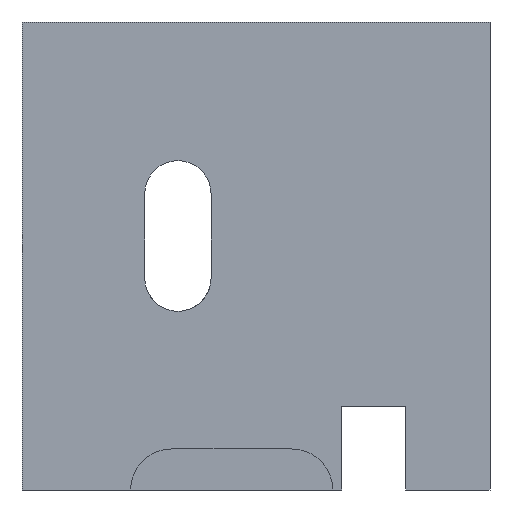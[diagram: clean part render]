
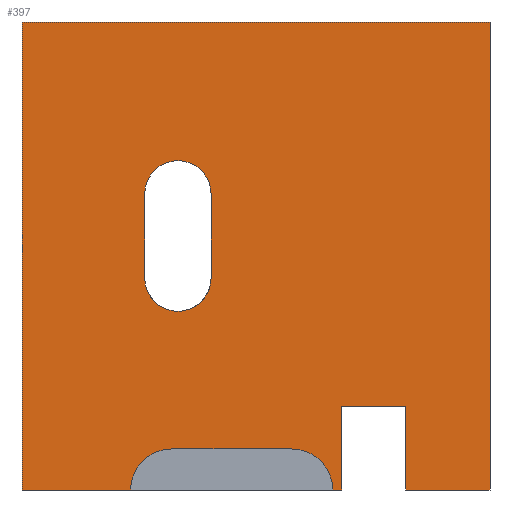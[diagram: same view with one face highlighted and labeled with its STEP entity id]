
A CAD part, left-side view. The second image highlights one B-rep face of the part: STEP entity #397.
In plain terms, the highlighted planar face has unit normal (-1, 0, 0).
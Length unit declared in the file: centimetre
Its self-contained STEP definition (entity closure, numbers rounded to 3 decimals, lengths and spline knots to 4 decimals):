
#7 = VECTOR ( 'NONE', #1164, 100. ) ;
#9 = VECTOR ( 'NONE', #144, 100. ) ;
#21 = LINE ( 'NONE', #1382, #1394 ) ;
#32 = EDGE_CURVE ( 'NONE', #129, #86, #112, .T. ) ;
#35 = CARTESIAN_POINT ( 'NONE',  ( 0., 1000., 1000. ) ) ;
#80 = ORIENTED_EDGE ( 'NONE', *, *, #687, .T. ) ;
#82 = DIRECTION ( 'NONE',  ( 1., 0., 0. ) ) ;
#84 = CARTESIAN_POINT ( 'NONE',  ( 0., 1000., 1000. ) ) ;
#86 = VERTEX_POINT ( 'NONE', #552 ) ;
#96 = ORIENTED_EDGE ( 'NONE', *, *, #774, .T. ) ;
#108 = EDGE_CURVE ( 'NONE', #1277, #644, #384, .T. ) ;
#112 = LINE ( 'NONE', #753, #224 ) ;
#129 = VERTEX_POINT ( 'NONE', #192 ) ;
#143 = VECTOR ( 'NONE', #1149, 100. ) ;
#144 = DIRECTION ( 'NONE',  ( 0., 0., -1. ) ) ;
#159 = CARTESIAN_POINT ( 'NONE',  ( 0., 596.045, 452.6683 ) ) ;
#165 = ORIENTED_EDGE ( 'NONE', *, *, #287, .T. ) ;
#169 = PLANE ( 'NONE',  #372 ) ;
#192 = CARTESIAN_POINT ( 'NONE',  ( 0., 1000., 1000. ) ) ;
#200 = EDGE_CURVE ( 'NONE', #209, #613, #1311, .T. ) ;
#209 = VERTEX_POINT ( 'NONE', #409 ) ;
#210 = VERTEX_POINT ( 'NONE', #756 ) ;
#224 = VECTOR ( 'NONE', #767, 100. ) ;
#276 = CARTESIAN_POINT ( 'NONE',  ( 0., 317.1774, 178.5651 ) ) ;
#287 = EDGE_CURVE ( 'NONE', #570, #1354, #922, .T. ) ;
#296 = ORIENTED_EDGE ( 'NONE', *, *, #1209, .T. ) ;
#300 = LINE ( 'NONE', #391, #330 ) ;
#305 = ORIENTED_EDGE ( 'NONE', *, *, #1381, .T. ) ;
#329 = CARTESIAN_POINT ( 'NONE',  ( 0., 737.7563, 452.6683 ) ) ;
#330 = VECTOR ( 'NONE', #845, 100. ) ;
#347 = CARTESIAN_POINT ( 'NONE',  ( 0., 737.7563, 632.8553 ) ) ;
#355 = DIRECTION ( 'NONE',  ( 0., 0., -1. ) ) ;
#356 = VERTEX_POINT ( 'NONE', #755 ) ;
#367 = CARTESIAN_POINT ( 'NONE',  ( 0., 179.9718, 0. ) ) ;
#372 = AXIS2_PLACEMENT_3D ( 'NONE', #84, #945, #1436 ) ;
#378 = EDGE_CURVE ( 'NONE', #86, #728, #1403, .T. ) ;
#384 = CIRCLE ( 'NONE', #924, 70.8557 ) ;
#391 = CARTESIAN_POINT ( 'NONE',  ( 0., 317.1774, 0. ) ) ;
#397 = ADVANCED_FACE ( 'NONE', ( #730, #1420 ), #169, .F. ) ;
#398 = AXIS2_PLACEMENT_3D ( 'NONE', #1284, #950, #602 ) ;
#408 = CARTESIAN_POINT ( 'NONE',  ( 0., 0., 1000. ) ) ;
#409 = CARTESIAN_POINT ( 'NONE',  ( 0., 423.8994, 87.7553 ) ) ;
#410 = DIRECTION ( 'NONE',  ( 0., 0., -1. ) ) ;
#418 = VECTOR ( 'NONE', #1205, 100. ) ;
#424 = EDGE_CURVE ( 'NONE', #895, #728, #1188, .T. ) ;
#429 = ORIENTED_EDGE ( 'NONE', *, *, #32, .F. ) ;
#438 = VERTEX_POINT ( 'NONE', #1208 ) ;
#466 = EDGE_CURVE ( 'NONE', #752, #475, #300, .T. ) ;
#468 = VECTOR ( 'NONE', #355, 100. ) ;
#472 = LINE ( 'NONE', #347, #143 ) ;
#473 = CARTESIAN_POINT ( 'NONE',  ( 0., 0., 0. ) ) ;
#475 = VERTEX_POINT ( 'NONE', #276 ) ;
#492 = ORIENTED_EDGE ( 'NONE', *, *, #1320, .F. ) ;
#501 = DIRECTION ( 'NONE',  ( 0., -1., 0. ) ) ;
#511 = CIRCLE ( 'NONE', #1009, 70.8557 ) ;
#540 = CARTESIAN_POINT ( 'NONE',  ( 0., 680.185, 87.7553 ) ) ;
#543 = ORIENTED_EDGE ( 'NONE', *, *, #108, .T. ) ;
#544 = CARTESIAN_POINT ( 'NONE',  ( 0., 179.9718, 178.5651 ) ) ;
#552 = CARTESIAN_POINT ( 'NONE',  ( 0., 0., 1000. ) ) ;
#561 = CIRCLE ( 'NONE', #908, 87.7553 ) ;
#562 = DIRECTION ( 'NONE',  ( 1., 0., 0. ) ) ;
#570 = VERTEX_POINT ( 'NONE', #1215 ) ;
#601 = EDGE_LOOP ( 'NONE', ( #165, #625, #543, #1056, #80 ) ) ;
#602 = DIRECTION ( 'NONE',  ( 0., 0., 1. ) ) ;
#606 = VECTOR ( 'NONE', #744, 100. ) ;
#609 = AXIS2_PLACEMENT_3D ( 'NONE', #911, #693, #1043 ) ;
#613 = VERTEX_POINT ( 'NONE', #540 ) ;
#625 = ORIENTED_EDGE ( 'NONE', *, *, #1023, .T. ) ;
#638 = VERTEX_POINT ( 'NONE', #884 ) ;
#644 = VERTEX_POINT ( 'NONE', #329 ) ;
#646 = CARTESIAN_POINT ( 'NONE',  ( 0., 666.9007, 452.6683 ) ) ;
#676 = DIRECTION ( 'NONE',  ( 0., 0., 1. ) ) ;
#687 = EDGE_CURVE ( 'NONE', #638, #570, #511, .T. ) ;
#689 = CARTESIAN_POINT ( 'NONE',  ( 0., 179.9718, 0. ) ) ;
#693 = DIRECTION ( 'NONE',  ( -1., 0., 0. ) ) ;
#708 = VERTEX_POINT ( 'NONE', #790 ) ;
#725 = VECTOR ( 'NONE', #880, 100. ) ;
#728 = VERTEX_POINT ( 'NONE', #473 ) ;
#730 = FACE_BOUND ( 'NONE', #601, .T. ) ;
#734 = ORIENTED_EDGE ( 'NONE', *, *, #805, .F. ) ;
#744 = DIRECTION ( 'NONE',  ( 0., 0., -1. ) ) ;
#749 = CARTESIAN_POINT ( 'NONE',  ( 0., 1000., 0. ) ) ;
#752 = VERTEX_POINT ( 'NONE', #1393 ) ;
#753 = CARTESIAN_POINT ( 'NONE',  ( 0., 1000., 1000. ) ) ;
#755 = CARTESIAN_POINT ( 'NONE',  ( 0., 179.9718, 178.5651 ) ) ;
#756 = CARTESIAN_POINT ( 'NONE',  ( 0., 767.9402, 0. ) ) ;
#767 = DIRECTION ( 'NONE',  ( 0., -1., 0. ) ) ;
#768 = ORIENTED_EDGE ( 'NONE', *, *, #200, .F. ) ;
#774 = EDGE_CURVE ( 'NONE', #356, #895, #1384, .T. ) ;
#790 = CARTESIAN_POINT ( 'NONE',  ( 0., 336.1441, 0. ) ) ;
#805 = EDGE_CURVE ( 'NONE', #613, #210, #1156, .T. ) ;
#813 = LINE ( 'NONE', #35, #9 ) ;
#845 = DIRECTION ( 'NONE',  ( 0., 0., 1. ) ) ;
#850 = ORIENTED_EDGE ( 'NONE', *, *, #466, .T. ) ;
#864 = DIRECTION ( 'NONE',  ( -1., 0., 0. ) ) ;
#866 = ORIENTED_EDGE ( 'NONE', *, *, #1317, .T. ) ;
#880 = DIRECTION ( 'NONE',  ( 0., -1., 0. ) ) ;
#884 = CARTESIAN_POINT ( 'NONE',  ( 0., 737.7563, 632.8553 ) ) ;
#895 = VERTEX_POINT ( 'NONE', #689 ) ;
#908 = AXIS2_PLACEMENT_3D ( 'NONE', #1124, #864, #410 ) ;
#911 = CARTESIAN_POINT ( 'NONE',  ( 0., 680.185, 0. ) ) ;
#922 = LINE ( 'NONE', #159, #7 ) ;
#924 = AXIS2_PLACEMENT_3D ( 'NONE', #646, #82, #1440 ) ;
#945 = DIRECTION ( 'NONE',  ( 1., 0., 0. ) ) ;
#950 = DIRECTION ( 'NONE',  ( 1., 0., 0. ) ) ;
#1009 = AXIS2_PLACEMENT_3D ( 'NONE', #1239, #562, #676 ) ;
#1023 = EDGE_CURVE ( 'NONE', #1354, #1277, #1030, .T. ) ;
#1030 = CIRCLE ( 'NONE', #398, 70.8557 ) ;
#1043 = DIRECTION ( 'NONE',  ( 0., 0., -1. ) ) ;
#1056 = ORIENTED_EDGE ( 'NONE', *, *, #1184, .T. ) ;
#1095 = LINE ( 'NONE', #544, #725 ) ;
#1124 = CARTESIAN_POINT ( 'NONE',  ( 0., 423.8994, 0. ) ) ;
#1131 = EDGE_LOOP ( 'NONE', ( #768, #492, #305, #850, #866, #96, #1262, #1300, #429, #1348, #296, #734 ) ) ;
#1149 = DIRECTION ( 'NONE',  ( 0., 0., 1. ) ) ;
#1156 = CIRCLE ( 'NONE', #609, 87.7553 ) ;
#1164 = DIRECTION ( 'NONE',  ( 0., 0., -1. ) ) ;
#1165 = EDGE_CURVE ( 'NONE', #129, #438, #813, .T. ) ;
#1180 = VECTOR ( 'NONE', #501, 100. ) ;
#1181 = CARTESIAN_POINT ( 'NONE',  ( 0., 1000., 0. ) ) ;
#1184 = EDGE_CURVE ( 'NONE', #644, #638, #472, .T. ) ;
#1188 = LINE ( 'NONE', #1181, #1180 ) ;
#1205 = DIRECTION ( 'NONE',  ( 0., -1., 0. ) ) ;
#1208 = CARTESIAN_POINT ( 'NONE',  ( 0., 1000., 0. ) ) ;
#1209 = EDGE_CURVE ( 'NONE', #438, #210, #21, .T. ) ;
#1215 = CARTESIAN_POINT ( 'NONE',  ( 0., 596.045, 632.8553 ) ) ;
#1218 = CARTESIAN_POINT ( 'NONE',  ( 0., 666.9007, 381.8126 ) ) ;
#1236 = CARTESIAN_POINT ( 'NONE',  ( 0., 596.045, 452.6683 ) ) ;
#1239 = CARTESIAN_POINT ( 'NONE',  ( 0., 666.9007, 632.8553 ) ) ;
#1262 = ORIENTED_EDGE ( 'NONE', *, *, #424, .T. ) ;
#1277 = VERTEX_POINT ( 'NONE', #1218 ) ;
#1284 = CARTESIAN_POINT ( 'NONE',  ( 0., 666.9007, 452.6683 ) ) ;
#1300 = ORIENTED_EDGE ( 'NONE', *, *, #378, .F. ) ;
#1303 = CARTESIAN_POINT ( 'NONE',  ( 0., 680.185, 87.7553 ) ) ;
#1311 = LINE ( 'NONE', #1303, #1443 ) ;
#1313 = LINE ( 'NONE', #749, #418 ) ;
#1317 = EDGE_CURVE ( 'NONE', #475, #356, #1095, .T. ) ;
#1320 = EDGE_CURVE ( 'NONE', #708, #209, #561, .T. ) ;
#1348 = ORIENTED_EDGE ( 'NONE', *, *, #1165, .T. ) ;
#1354 = VERTEX_POINT ( 'NONE', #1236 ) ;
#1376 = DIRECTION ( 'NONE',  ( 0., -1., 0. ) ) ;
#1381 = EDGE_CURVE ( 'NONE', #708, #752, #1313, .T. ) ;
#1382 = CARTESIAN_POINT ( 'NONE',  ( 0., 1000., 0. ) ) ;
#1384 = LINE ( 'NONE', #367, #468 ) ;
#1393 = CARTESIAN_POINT ( 'NONE',  ( 0., 317.1774, 0. ) ) ;
#1394 = VECTOR ( 'NONE', #1376, 100. ) ;
#1403 = LINE ( 'NONE', #408, #606 ) ;
#1420 = FACE_OUTER_BOUND ( 'NONE', #1131, .T. ) ;
#1436 = DIRECTION ( 'NONE',  ( 0., 0., -1. ) ) ;
#1437 = DIRECTION ( 'NONE',  ( 0., 1., 0. ) ) ;
#1440 = DIRECTION ( 'NONE',  ( 0., 0., 1. ) ) ;
#1443 = VECTOR ( 'NONE', #1437, 100. ) ;
